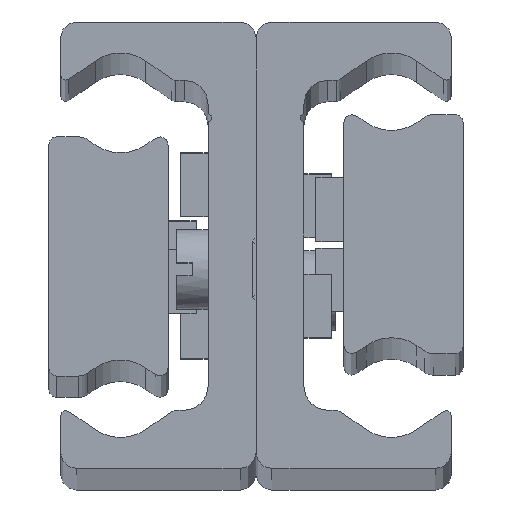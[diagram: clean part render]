
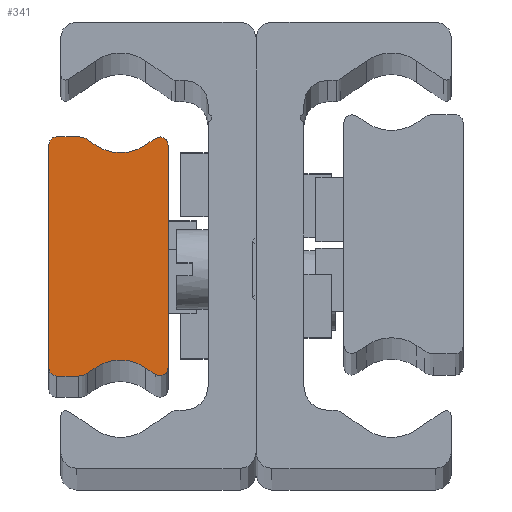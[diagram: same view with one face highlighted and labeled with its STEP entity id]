
A CAD part, top view. The second image highlights one B-rep face of the part: STEP entity #341.
In plain terms, the highlighted planar face has unit normal (0, 0, 1) as drawn and (0, 0, -1) by its records, which use the part's own axes.
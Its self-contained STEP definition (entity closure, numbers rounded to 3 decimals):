
#341 = ADVANCED_FACE( '', ( #769 ), #770, .F. );
#769 = FACE_OUTER_BOUND( '', #1383, .T. );
#770 = PLANE( '', #1384 );
#1383 = EDGE_LOOP( '', ( #2191, #2192, #2193, #2194, #2195, #2196, #2197, #2198, #2199, #2200, #2201, #2202, #2203, #2204, #2205, #2206 ) );
#1384 = AXIS2_PLACEMENT_3D( '', #2207, #2208, #2209 );
#2191 = ORIENTED_EDGE( '', *, *, #3376, .F. );
#2192 = ORIENTED_EDGE( '', *, *, #3377, .F. );
#2193 = ORIENTED_EDGE( '', *, *, #3378, .F. );
#2194 = ORIENTED_EDGE( '', *, *, #3379, .F. );
#2195 = ORIENTED_EDGE( '', *, *, #3246, .F. );
#2196 = ORIENTED_EDGE( '', *, *, #3380, .T. );
#2197 = ORIENTED_EDGE( '', *, *, #3381, .F. );
#2198 = ORIENTED_EDGE( '', *, *, #3382, .F. );
#2199 = ORIENTED_EDGE( '', *, *, #3383, .F. );
#2200 = ORIENTED_EDGE( '', *, *, #3384, .F. );
#2201 = ORIENTED_EDGE( '', *, *, #3385, .F. );
#2202 = ORIENTED_EDGE( '', *, *, #3386, .T. );
#2203 = ORIENTED_EDGE( '', *, *, #3387, .F. );
#2204 = ORIENTED_EDGE( '', *, *, #3261, .F. );
#2205 = ORIENTED_EDGE( '', *, *, #3388, .F. );
#2206 = ORIENTED_EDGE( '', *, *, #3182, .F. );
#2207 = CARTESIAN_POINT( '', ( 0.5, -7., -770. ) );
#2208 = DIRECTION( '', ( 0., 0., 1. ) );
#2209 = DIRECTION( '', ( 1., 0., 0. ) );
#3182 = EDGE_CURVE( '', #3688, #3690, #3691, .T. );
#3246 = EDGE_CURVE( '', #3806, #3808, #3809, .T. );
#3261 = EDGE_CURVE( '', #3830, #3832, #3833, .T. );
#3376 = EDGE_CURVE( '', #4019, #3688, #4020, .T. );
#3377 = EDGE_CURVE( '', #4021, #4019, #4022, .T. );
#3378 = EDGE_CURVE( '', #4023, #4021, #4024, .T. );
#3379 = EDGE_CURVE( '', #3808, #4023, #4025, .T. );
#3380 = EDGE_CURVE( '', #3806, #4026, #4027, .T. );
#3381 = EDGE_CURVE( '', #4028, #4026, #4029, .T. );
#3382 = EDGE_CURVE( '', #4030, #4028, #4031, .T. );
#3383 = EDGE_CURVE( '', #4032, #4030, #4033, .T. );
#3384 = EDGE_CURVE( '', #4034, #4032, #4035, .T. );
#3385 = EDGE_CURVE( '', #4036, #4034, #4037, .T. );
#3386 = EDGE_CURVE( '', #4036, #4038, #4039, .T. );
#3387 = EDGE_CURVE( '', #3832, #4038, #4040, .T. );
#3388 = EDGE_CURVE( '', #3690, #3830, #4041, .T. );
#3688 = VERTEX_POINT( '', #4449 );
#3690 = VERTEX_POINT( '', #4452 );
#3691 = CIRCLE( '', #4453, 0.5 );
#3806 = VERTEX_POINT( '', #4599 );
#3808 = VERTEX_POINT( '', #4602 );
#3809 = LINE( '', #4603, #4604 );
#3830 = VERTEX_POINT( '', #4630 );
#3832 = VERTEX_POINT( '', #4633 );
#3833 = CIRCLE( '', #4634, 1. );
#4019 = VERTEX_POINT( '', #4876 );
#4020 = LINE( '', #4877, #4878 );
#4021 = VERTEX_POINT( '', #4879 );
#4022 = CIRCLE( '', #4880, 0.5 );
#4023 = VERTEX_POINT( '', #4881 );
#4024 = LINE( '', #4882, #4883 );
#4025 = CIRCLE( '', #4884, 1. );
#4026 = VERTEX_POINT( '', #4885 );
#4027 = CIRCLE( '', #4886, 2.778 );
#4028 = VERTEX_POINT( '', #4887 );
#4029 = LINE( '', #4888, #4889 );
#4030 = VERTEX_POINT( '', #4890 );
#4031 = CIRCLE( '', #4891, 0.523 );
#4032 = VERTEX_POINT( '', #4892 );
#4033 = LINE( '', #4893, #4894 );
#4034 = VERTEX_POINT( '', #4895 );
#4035 = CIRCLE( '', #4896, 0.523 );
#4036 = VERTEX_POINT( '', #4897 );
#4037 = LINE( '', #4898, #4899 );
#4038 = VERTEX_POINT( '', #4900 );
#4039 = CIRCLE( '', #4901, 2.778 );
#4040 = LINE( '', #4902, #4903 );
#4041 = LINE( '', #4904, #4905 );
#4449 = CARTESIAN_POINT( '', ( 0., -7., -770. ) );
#4452 = CARTESIAN_POINT( '', ( 0.5, -7.5, -770. ) );
#4453 = AXIS2_PLACEMENT_3D( '', #5406, #5407, #5408 );
#4599 = CARTESIAN_POINT( '', ( 2.907, 6.997, -770. ) );
#4602 = CARTESIAN_POINT( '', ( 2.446, 7.319, -770. ) );
#4603 = CARTESIAN_POINT( '', ( 2.907, 6.997, -770. ) );
#4604 = VECTOR( '', #5504, 1000. );
#4630 = CARTESIAN_POINT( '', ( 1.873, -7.5, -770. ) );
#4633 = CARTESIAN_POINT( '', ( 2.446, -7.319, -770. ) );
#4634 = AXIS2_PLACEMENT_3D( '', #5523, #5524, #5525 );
#4876 = CARTESIAN_POINT( '', ( 0., 7., -770. ) );
#4877 = CARTESIAN_POINT( '', ( 0., 7., -770. ) );
#4878 = VECTOR( '', #5672, 1000. );
#4879 = CARTESIAN_POINT( '', ( 0.5, 7.5, -770. ) );
#4880 = AXIS2_PLACEMENT_3D( '', #5673, #5674, #5675 );
#4881 = CARTESIAN_POINT( '', ( 1.873, 7.5, -770. ) );
#4882 = CARTESIAN_POINT( '', ( 1.873, 7.5, -770. ) );
#4883 = VECTOR( '', #5676, 1000. );
#4884 = AXIS2_PLACEMENT_3D( '', #5677, #5678, #5679 );
#4885 = CARTESIAN_POINT( '', ( 6.093, 6.997, -770. ) );
#4886 = AXIS2_PLACEMENT_3D( '', #5680, #5681, #5682 );
#4887 = CARTESIAN_POINT( '', ( 6.677, 7.405, -770. ) );
#4888 = CARTESIAN_POINT( '', ( 6.677, 7.405, -770. ) );
#4889 = VECTOR( '', #5683, 1000. );
#4890 = CARTESIAN_POINT( '', ( 7.5, 6.977, -770. ) );
#4891 = AXIS2_PLACEMENT_3D( '', #5684, #5685, #5686 );
#4892 = CARTESIAN_POINT( '', ( 7.5, -6.977, -770. ) );
#4893 = CARTESIAN_POINT( '', ( 7.5, -6.977, -770. ) );
#4894 = VECTOR( '', #5687, 1000. );
#4895 = CARTESIAN_POINT( '', ( 6.677, -7.405, -770. ) );
#4896 = AXIS2_PLACEMENT_3D( '', #5688, #5689, #5690 );
#4897 = CARTESIAN_POINT( '', ( 6.093, -6.997, -770. ) );
#4898 = CARTESIAN_POINT( '', ( 6.093, -6.997, -770. ) );
#4899 = VECTOR( '', #5691, 1000. );
#4900 = CARTESIAN_POINT( '', ( 2.907, -6.997, -770. ) );
#4901 = AXIS2_PLACEMENT_3D( '', #5692, #5693, #5694 );
#4902 = CARTESIAN_POINT( '', ( 2.446, -7.319, -770. ) );
#4903 = VECTOR( '', #5695, 1000. );
#4904 = CARTESIAN_POINT( '', ( 0.5, -7.5, -770. ) );
#4905 = VECTOR( '', #5696, 1000. );
#5406 = CARTESIAN_POINT( '', ( 0.5, -7., -770. ) );
#5407 = DIRECTION( '', ( 0., 0., 1. ) );
#5408 = DIRECTION( '', ( 1., 0., 0. ) );
#5504 = DIRECTION( '', ( -0.819, 0.574, 0. ) );
#5523 = CARTESIAN_POINT( '', ( 1.873, -6.5, -770. ) );
#5524 = DIRECTION( '', ( 0., 0., 1. ) );
#5525 = DIRECTION( '', ( 1., 0., 0. ) );
#5672 = DIRECTION( '', ( 0., -1., 0. ) );
#5673 = CARTESIAN_POINT( '', ( 0.5, 7., -770. ) );
#5674 = DIRECTION( '', ( 0., 0., 1. ) );
#5675 = DIRECTION( '', ( 1., 0., 0. ) );
#5676 = DIRECTION( '', ( -1., 0., 0. ) );
#5677 = CARTESIAN_POINT( '', ( 1.873, 6.5, -770. ) );
#5678 = DIRECTION( '', ( 0., 0., 1. ) );
#5679 = DIRECTION( '', ( 1., 0., 0. ) );
#5680 = CARTESIAN_POINT( '', ( 4.5, 9.272, -770. ) );
#5681 = DIRECTION( '', ( 0., 0., 1. ) );
#5682 = DIRECTION( '', ( 1., 0., 0. ) );
#5683 = DIRECTION( '', ( -0.819, -0.574, 0. ) );
#5684 = CARTESIAN_POINT( '', ( 6.977, 6.977, -770. ) );
#5685 = DIRECTION( '', ( 0., 0., 1. ) );
#5686 = DIRECTION( '', ( 1., 0., 0. ) );
#5687 = DIRECTION( '', ( 0., 1., 0. ) );
#5688 = CARTESIAN_POINT( '', ( 6.977, -6.977, -770. ) );
#5689 = DIRECTION( '', ( 0., 0., 1. ) );
#5690 = DIRECTION( '', ( 1., 0., 0. ) );
#5691 = DIRECTION( '', ( 0.819, -0.574, 0. ) );
#5692 = CARTESIAN_POINT( '', ( 4.5, -9.272, -770. ) );
#5693 = DIRECTION( '', ( 0., 0., 1. ) );
#5694 = DIRECTION( '', ( 1., 0., 0. ) );
#5695 = DIRECTION( '', ( 0.819, 0.574, 0. ) );
#5696 = DIRECTION( '', ( 1., 0., 0. ) );
